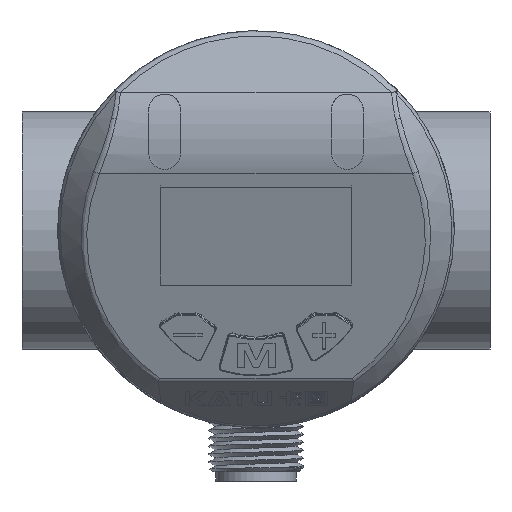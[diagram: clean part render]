
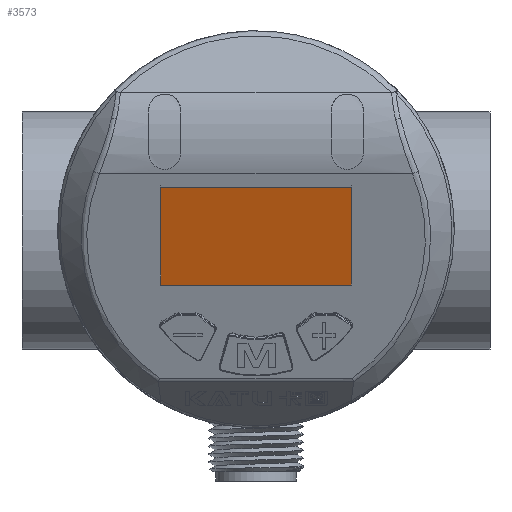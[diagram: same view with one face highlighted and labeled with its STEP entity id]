
A CAD part, top view. The second image highlights one B-rep face of the part: STEP entity #3573.
In plain terms, the highlighted planar face has unit normal (0, -0.342, 0.94).
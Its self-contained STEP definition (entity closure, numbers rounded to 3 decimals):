
#1254=LINE('',#18557,#2006);
#1255=LINE('',#18560,#2007);
#1256=LINE('',#18562,#2008);
#1257=LINE('',#18564,#2009);
#2006=VECTOR('',#13143,1.);
#2007=VECTOR('',#13144,1.);
#2008=VECTOR('',#13145,1.);
#2009=VECTOR('',#13146,1.);
#3573=ADVANCED_FACE('',(#4450),#4059,.T.);
#4059=PLANE('',#11535);
#4450=FACE_OUTER_BOUND('',#5111,.T.);
#5111=EDGE_LOOP('',(#6484,#6485,#6486,#6487));
#6484=ORIENTED_EDGE('',*,*,#9821,.T.);
#6485=ORIENTED_EDGE('',*,*,#9822,.T.);
#6486=ORIENTED_EDGE('',*,*,#9823,.T.);
#6487=ORIENTED_EDGE('',*,*,#9824,.T.);
#8722=VERTEX_POINT('',#18558);
#8723=VERTEX_POINT('',#18559);
#8724=VERTEX_POINT('',#18561);
#8725=VERTEX_POINT('',#18563);
#9821=EDGE_CURVE('',#8722,#8723,#1254,.T.);
#9822=EDGE_CURVE('',#8723,#8724,#1255,.T.);
#9823=EDGE_CURVE('',#8724,#8725,#1256,.T.);
#9824=EDGE_CURVE('',#8725,#8722,#1257,.T.);
#11535=AXIS2_PLACEMENT_3D('',#18565,#13147,#13148);
#13143=DIRECTION('',(0.,-0.94,-0.342));
#13144=DIRECTION('',(1.,0.,0.));
#13145=DIRECTION('',(0.,0.94,0.342));
#13146=DIRECTION('',(-1.,0.,0.));
#13147=DIRECTION('',(0.,-0.342,0.94));
#13148=DIRECTION('',(0.,-0.94,-0.342));
#18557=CARTESIAN_POINT('',(18.994,14.306,121.2));
#18558=CARTESIAN_POINT('',(18.998,5.258,117.907));
#18559=CARTESIAN_POINT('',(19.003,-7.061,113.423));
#18560=CARTESIAN_POINT('',(46.759,-7.051,113.427));
#18561=CARTESIAN_POINT('',(42.997,-7.052,113.426));
#18562=CARTESIAN_POINT('',(42.988,14.315,121.203));
#18563=CARTESIAN_POINT('',(42.992,5.267,117.91));
#18564=CARTESIAN_POINT('',(46.753,5.268,117.91));
#18565=CARTESIAN_POINT('',(46.75,14.316,121.204));
